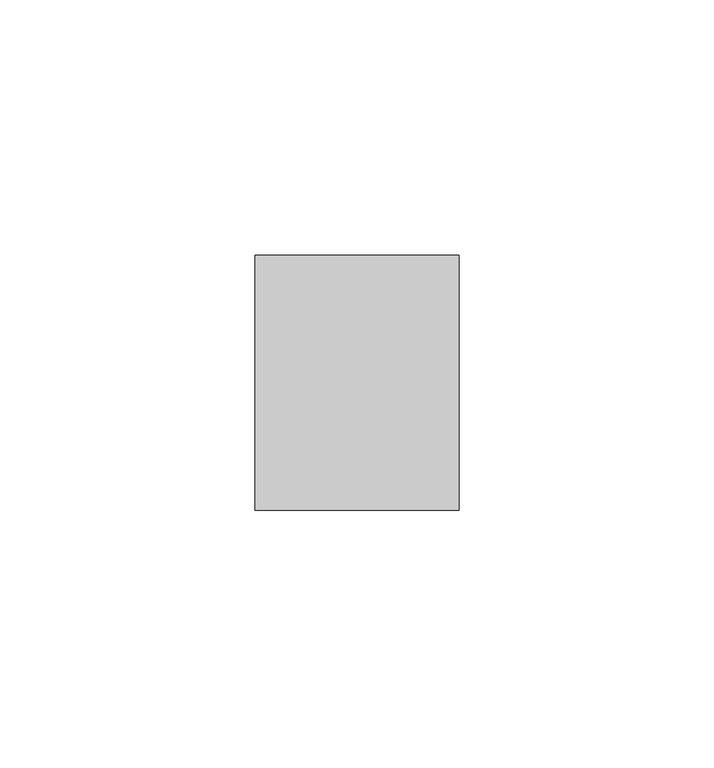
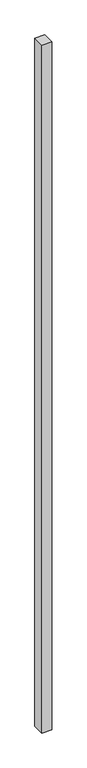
"""IFC4 building model written with IfcOpenShell, lengths in millimetres: member geometry, Прямоугольный импост : 40х50."""

from ifc_helpers import new_model, si_unit, frame, origin, place, context, project, spatial, polyline, outline, extrude, source, transform, mapped, element, save


def member_76b97fcb(model_context):
    return source(origin(), model_context, "Body", "SweptSolid", [
        extrude(outline(polyline([(0.0, 50.0), (0.0, 0.0), (-40.0, 0.0), (-40.0, 50.0), (0.0, 50.0)])), frame((0.0, 0.0, -3000.0), z_axis=(0.0, 0.0, 1.0), x_axis=(1.0, 0.0, 0.0)), (0.0, 0.0, 1.0), 3000.0),
    ])


if __name__ == "__main__":
    model = new_model("IFC4")
    model_context = context("Model", 3, world=origin())
    ifc_project = project(units=[si_unit("LENGTHUNIT", "METRE", prefix="MILLI")], contexts=[model_context])
    site = spatial("IfcSite", under=ifc_project)
    building = spatial("IfcBuilding", under=site)
    placement = place(None, origin())
    member_shape = member_76b97fcb(model_context)
    element("IfcMember", 1, ObjectType="Прямоугольный импост : 40х50", at=placement, inside=building, context=model_context, shape_type="MappedRepresentation", body=[
        mapped(member_shape, transform((0.0, 0.0, 0.0), x_axis=(1.0, 0.0, 0.0), y_axis=(0.0, 1.0, 0.0), z_axis=(0.0, 0.0, 1.0))),
    ])
    save(model, "model.ifc")
